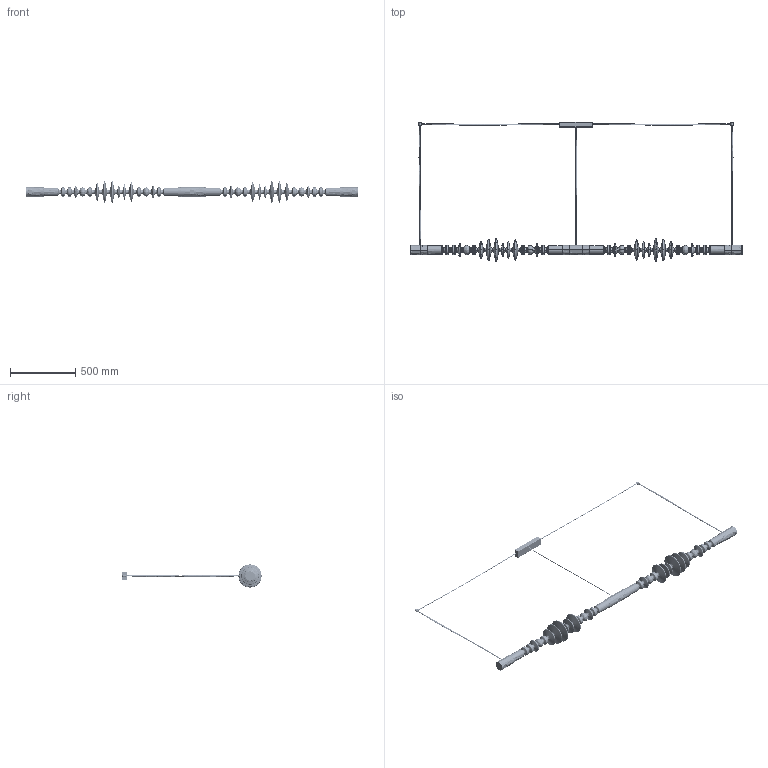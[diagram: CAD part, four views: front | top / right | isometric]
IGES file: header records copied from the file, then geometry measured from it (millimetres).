
Start section: SolidWorks IGES file using analytic representation for surfaces
Global section: file name: G:\Drive condivisi\Ufficio Tecnico\Research\X21 Filamento\Progetto\ATC-X21-S5\Architetti\Filamento Horizontal Double, Shape 1+1.IGS; native system: SolidWorks 2025; preprocessor: SolidWorks 2025; author: Tecnico01; date: 260430.112053; units: millimetre
Bounding box: 2550 x 1068 x 177 mm (x, y, z)
Surface area: 2001313.3 mm2 (no closed solid volume)
Topology: 0 solids, 0 shells, 1492 faces, 17560 edges, 17552 vertices
Faces by surface type: bspline 789, revolution 703
